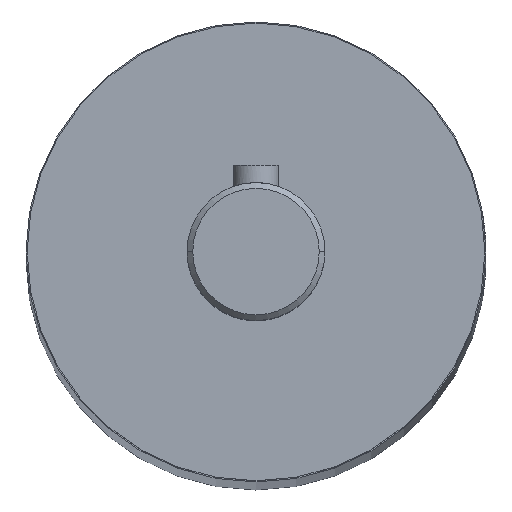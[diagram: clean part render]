
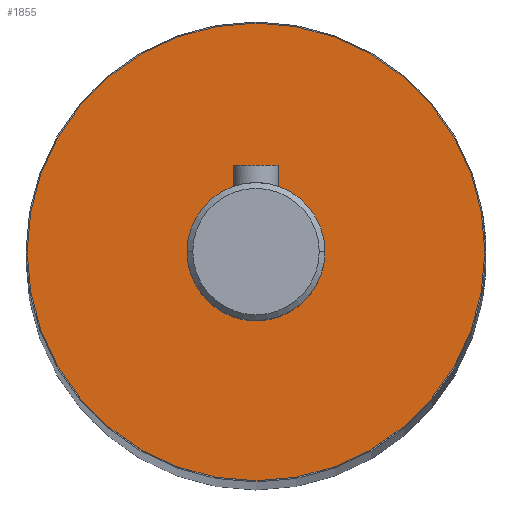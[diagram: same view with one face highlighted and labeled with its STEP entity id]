
A CAD part, top view. The second image highlights one B-rep face of the part: STEP entity #1855.
In plain terms, the highlighted planar face has unit normal (0, 0, 1).
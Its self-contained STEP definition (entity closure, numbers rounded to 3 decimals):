
#36 = CIRCLE ( 'NONE', #1210, 19.9 ) ;
#80 = ORIENTED_EDGE ( 'NONE', *, *, #681, .T. ) ;
#122 = AXIS2_PLACEMENT_3D ( 'NONE', #569, #393, #1183 ) ;
#168 = VERTEX_POINT ( 'NONE', #1142 ) ;
#172 = PLANE ( 'NONE',  #1286 ) ;
#263 = EDGE_CURVE ( 'NONE', #1690, #1062, #1169, .T. ) ;
#296 = AXIS2_PLACEMENT_3D ( 'NONE', #1753, #1758, #1170 ) ;
#309 = ORIENTED_EDGE ( 'NONE', *, *, #1003, .T. ) ;
#322 = FACE_BOUND ( 'NONE', #512, .T. ) ;
#339 = AXIS2_PLACEMENT_3D ( 'NONE', #1041, #1049, #1653 ) ;
#393 = DIRECTION ( 'NONE',  ( 0., 0., 1. ) ) ;
#399 = CARTESIAN_POINT ( 'NONE',  ( 6., 0., 202.5 ) ) ;
#426 = DIRECTION ( 'NONE',  ( 0., 0., 1. ) ) ;
#435 = DIRECTION ( 'NONE',  ( 1., 0., 0. ) ) ;
#512 = EDGE_LOOP ( 'NONE', ( #1893, #1448 ) ) ;
#569 = CARTESIAN_POINT ( 'NONE',  ( 0., 0., 202.5 ) ) ;
#681 = EDGE_CURVE ( 'NONE', #168, #983, #1591, .T. ) ;
#713 = CARTESIAN_POINT ( 'NONE',  ( -19.9, 0., 202.5 ) ) ;
#733 = CIRCLE ( 'NONE', #122, 6. ) ;
#878 = CARTESIAN_POINT ( 'NONE',  ( -6., 0., 202.5 ) ) ;
#983 = VERTEX_POINT ( 'NONE', #713 ) ;
#1003 = EDGE_CURVE ( 'NONE', #983, #168, #36, .T. ) ;
#1006 = CARTESIAN_POINT ( 'NONE',  ( 0., 0., 202.5 ) ) ;
#1027 = DIRECTION ( 'NONE',  ( 1., 0., 0. ) ) ;
#1041 = CARTESIAN_POINT ( 'NONE',  ( 0., 0., 202.5 ) ) ;
#1049 = DIRECTION ( 'NONE',  ( 0., 0., 1. ) ) ;
#1062 = VERTEX_POINT ( 'NONE', #878 ) ;
#1072 = CARTESIAN_POINT ( 'NONE',  ( 0., 0., 202.5 ) ) ;
#1142 = CARTESIAN_POINT ( 'NONE',  ( 19.9, 0., 202.5 ) ) ;
#1169 = CIRCLE ( 'NONE', #296, 6. ) ;
#1170 = DIRECTION ( 'NONE',  ( 1., 0., 0. ) ) ;
#1183 = DIRECTION ( 'NONE',  ( 1., 0., 0. ) ) ;
#1210 = AXIS2_PLACEMENT_3D ( 'NONE', #1006, #1760, #1027 ) ;
#1286 = AXIS2_PLACEMENT_3D ( 'NONE', #1072, #426, #435 ) ;
#1448 = ORIENTED_EDGE ( 'NONE', *, *, #263, .F. ) ;
#1536 = EDGE_CURVE ( 'NONE', #1062, #1690, #733, .T. ) ;
#1546 = FACE_OUTER_BOUND ( 'NONE', #1552, .T. ) ;
#1552 = EDGE_LOOP ( 'NONE', ( #309, #80 ) ) ;
#1591 = CIRCLE ( 'NONE', #339, 19.9 ) ;
#1653 = DIRECTION ( 'NONE',  ( 1., 0., 0. ) ) ;
#1690 = VERTEX_POINT ( 'NONE', #399 ) ;
#1753 = CARTESIAN_POINT ( 'NONE',  ( 0., 0., 202.5 ) ) ;
#1758 = DIRECTION ( 'NONE',  ( 0., 0., 1. ) ) ;
#1760 = DIRECTION ( 'NONE',  ( 0., 0., 1. ) ) ;
#1855 = ADVANCED_FACE ( 'NONE', ( #322, #1546 ), #172, .T. ) ;
#1893 = ORIENTED_EDGE ( 'NONE', *, *, #1536, .F. ) ;
